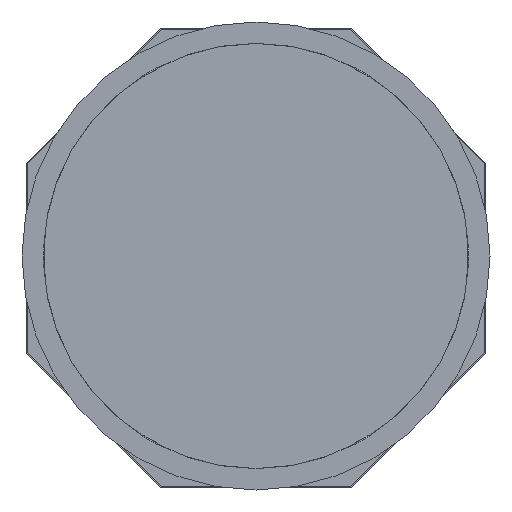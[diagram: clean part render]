
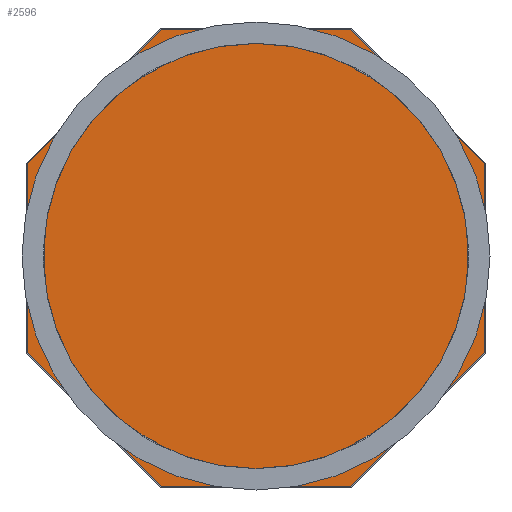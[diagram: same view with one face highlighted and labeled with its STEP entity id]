
A CAD part, front view. The second image highlights one B-rep face of the part: STEP entity #2596.
In plain terms, the highlighted planar face has unit normal (0, -1, 0).
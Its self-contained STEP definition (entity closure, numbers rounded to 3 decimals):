
#2164=DIRECTION('',(-0.707,0.,0.707));
#2165=VECTOR('',#2164,353.738);
#2166=CARTESIAN_POINT('',(-176.869,52.75,-431.));
#2167=LINE('',#2166,#2165);
#2172=DIRECTION('',(0.,0.,1.));
#2173=VECTOR('',#2172,353.738);
#2174=CARTESIAN_POINT('',(-427.,52.75,-180.869));
#2175=LINE('',#2174,#2173);
#2180=DIRECTION('',(0.707,0.,0.707));
#2181=VECTOR('',#2180,353.738);
#2182=CARTESIAN_POINT('',(-427.,52.75,172.869));
#2183=LINE('',#2182,#2181);
#2188=DIRECTION('',(1.,0.,0.));
#2189=VECTOR('',#2188,353.738);
#2190=CARTESIAN_POINT('',(-176.869,52.75,423.));
#2191=LINE('',#2190,#2189);
#2196=DIRECTION('',(0.707,0.,-0.707));
#2197=VECTOR('',#2196,353.738);
#2198=CARTESIAN_POINT('',(176.869,52.75,423.));
#2199=LINE('',#2198,#2197);
#2204=DIRECTION('',(0.,0.,-1.));
#2205=VECTOR('',#2204,353.738);
#2206=CARTESIAN_POINT('',(427.,52.75,172.869));
#2207=LINE('',#2206,#2205);
#2212=DIRECTION('',(-0.707,0.,-0.707));
#2213=VECTOR('',#2212,353.738);
#2214=CARTESIAN_POINT('',(427.,52.75,-180.869));
#2215=LINE('',#2214,#2213);
#2220=DIRECTION('',(-1.,0.,0.));
#2221=VECTOR('',#2220,353.738);
#2222=CARTESIAN_POINT('',(176.869,52.75,-431.));
#2223=LINE('',#2222,#2221);
#2317=CARTESIAN_POINT('',(-176.869,52.75,-431.));
#2318=CARTESIAN_POINT('',(-427.,52.75,-180.869));
#2319=VERTEX_POINT('',#2317);
#2320=VERTEX_POINT('',#2318);
#2321=CARTESIAN_POINT('',(176.869,52.75,-431.));
#2322=VERTEX_POINT('',#2321);
#2323=CARTESIAN_POINT('',(427.,52.75,-180.869));
#2324=VERTEX_POINT('',#2323);
#2325=CARTESIAN_POINT('',(427.,52.75,172.869));
#2326=VERTEX_POINT('',#2325);
#2327=CARTESIAN_POINT('',(176.869,52.75,423.));
#2328=VERTEX_POINT('',#2327);
#2329=CARTESIAN_POINT('',(-176.869,52.75,423.));
#2330=VERTEX_POINT('',#2329);
#2331=CARTESIAN_POINT('',(-427.,52.75,172.869));
#2332=VERTEX_POINT('',#2331);
#2574=CARTESIAN_POINT('',(0.,52.75,0.));
#2575=DIRECTION('',(0.,1.,0.));
#2576=DIRECTION('',(1.,0.,0.));
#2577=AXIS2_PLACEMENT_3D('',#2574,#2575,#2576);
#2578=PLANE('',#2577);
#2579=ORIENTED_EDGE('',*,*,#2564,.T.);
#2581=ORIENTED_EDGE('',*,*,#2580,.T.);
#2583=ORIENTED_EDGE('',*,*,#2582,.T.);
#2585=ORIENTED_EDGE('',*,*,#2584,.T.);
#2587=ORIENTED_EDGE('',*,*,#2586,.T.);
#2589=ORIENTED_EDGE('',*,*,#2588,.T.);
#2591=ORIENTED_EDGE('',*,*,#2590,.T.);
#2593=ORIENTED_EDGE('',*,*,#2592,.T.);
#2594=EDGE_LOOP('',(#2579,#2581,#2583,#2585,#2587,#2589,#2591,#2593));
#2595=FACE_OUTER_BOUND('',#2594,.F.);
#2564=EDGE_CURVE('',#2319,#2320,#2167,.T.);
#2580=EDGE_CURVE('',#2320,#2332,#2175,.T.);
#2582=EDGE_CURVE('',#2332,#2330,#2183,.T.);
#2584=EDGE_CURVE('',#2330,#2328,#2191,.T.);
#2586=EDGE_CURVE('',#2328,#2326,#2199,.T.);
#2588=EDGE_CURVE('',#2326,#2324,#2207,.T.);
#2590=EDGE_CURVE('',#2324,#2322,#2215,.T.);
#2592=EDGE_CURVE('',#2322,#2319,#2223,.T.);
#2596=ADVANCED_FACE('',(#2595),#2578,.F.);
